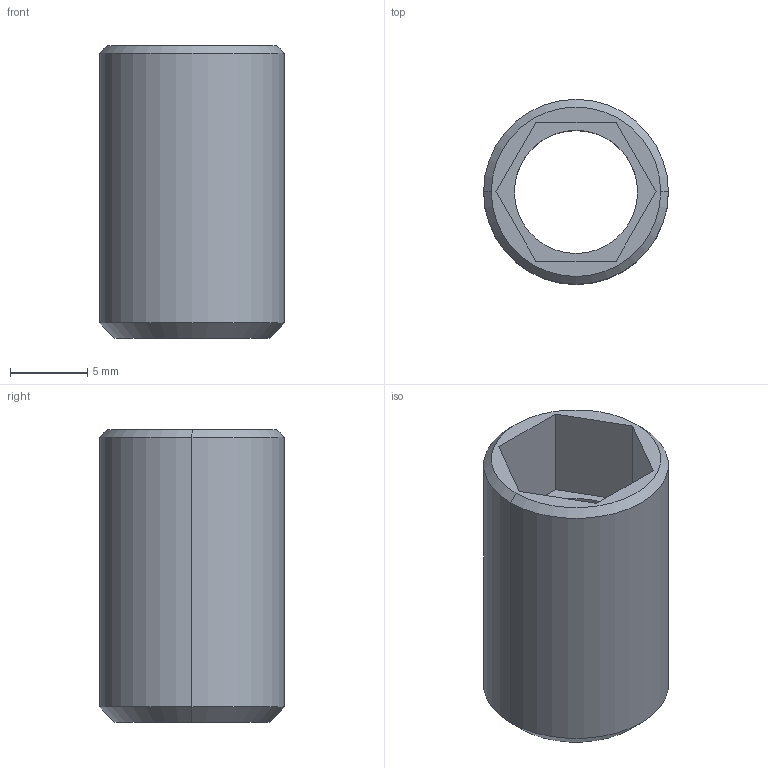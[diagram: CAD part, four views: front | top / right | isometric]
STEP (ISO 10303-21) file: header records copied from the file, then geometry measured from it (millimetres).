
FILE_DESCRIPTION (( 'STEP AP203' ), '1' );
FILE_NAME ('TCRS M12M8 Helicoil M12 M8 (01-06-2021).STEP', '2021-06-01T06:07:09', ( '' ), ( '' ), 'SwSTEP 2.0', 'SolidWorks 2020', '' );
FILE_SCHEMA (( 'CONFIG_CONTROL_DESIGN' ));
Length unit declared in the file: millimetre
Products named in the file (1): TCRS M12M8 Helicoil M12 M8 (01-06-2021)
Bounding box: 12 x 12 x 19 mm (x, y, z)
Volume: 1052.1 mm3; surface area: 1321 mm2
Topology: 1 solids, 1 shells, 17 faces, 38 edges, 24 vertices
Faces by surface type: plane 9, cone 4, cylinder 4
Entity records: 553 total; most frequent: DIRECTION 86, CARTESIAN_POINT 80, ORIENTED_EDGE 76, EDGE_CURVE 38, AXIS2_PLACEMENT_3D 30, VECTOR 26, LINE 26, VERTEX_POINT 24
